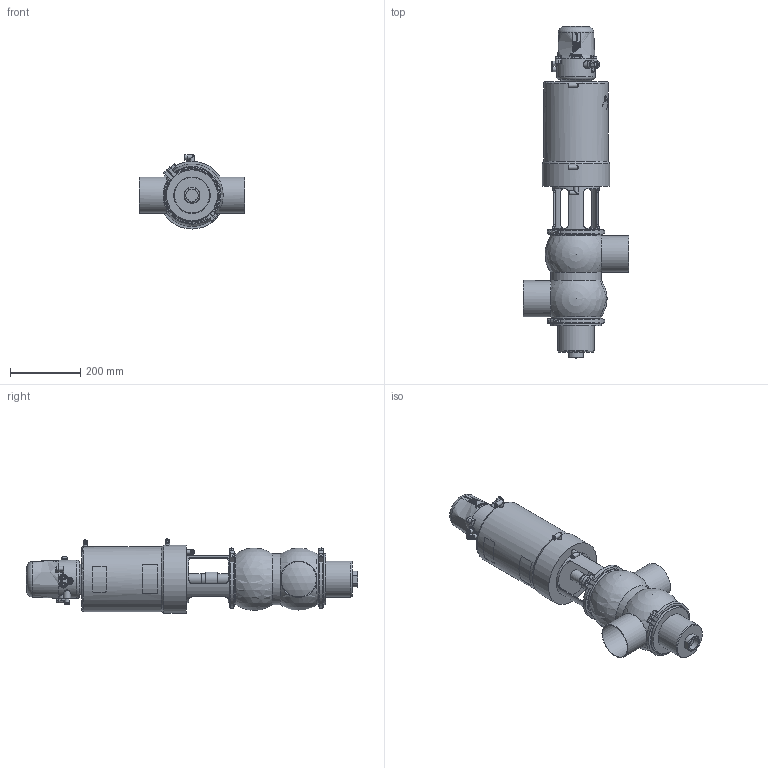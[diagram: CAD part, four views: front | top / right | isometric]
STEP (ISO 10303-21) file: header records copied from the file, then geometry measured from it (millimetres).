
FILE_DESCRIPTION (( 'STEP AP214' ), '1' );
FILE_NAME ('INNOVA P DC-180 W DIN 100 & C-TOP S_10.250.16.0019.STEP', '2024-08-08T12:22:23', ( '' ), ( '' ), 'SwSTEP 2.0', 'SolidWorks 2023', '' );
FILE_SCHEMA (( 'AUTOMOTIVE_DESIGN' ));
Length unit declared in the file: millimetre
Products named in the file (7): 10.426.15.0001_C-TOP S - 3 EV; 10.250.15.0003_DN 100; 10.250.15.0001_DIN 100; INNOVA P DC-180 W DIN 100 & C-TOP S_10.250.16.0019; 10.251.15.0011_DIN 100; 10.250.15.0002_Type P T3; 10.240.15.0001_DN 100
Assembly tree (7 placements, depth 2):
  INNOVA P DC-180 W DIN 100 & C-TOP S_10.250.16.0019
    10.250.15.0001_DIN 100
    10.250.15.0002_Type P T3
    10.426.15.0001_C-TOP S - 3 EV
    10.251.15.0011_DIN 100
    10.240.15.0001_DN 100  x2
    10.250.15.0003_DN 100
Bounding box: 300 x 946.5 x 211.5 mm (x, y, z)
Volume: 16440713 mm3; surface area: 836445 mm2
Topology: 7 solids, 7 shells, 1202 faces, 2901 edges, 1929 vertices
Faces by surface type: plane 412, cylinder 383, cone 204, bspline 162, torus 33, sphere 8
Full cylindrical faces by diameter (mm): 0.371 x17, 0.512 x16, 0.658 x16, 0.795 x16, 0.94 x15, 1.098 x15, 1.241 x13, 1.382 x13, 1.523 x11, 1.669 x10, 2.201 x1, 4.2 x2, 5 x1, 5.5 x2, 6 x4, 6.15 x3, 8 x5, 10 x1, 10.5 x3, 11 x4, 12.5 x9, 13 x6, 13.5 x2, 17 x3, 20 x2, 22 x2, 30.5 x2, 32 x1, 35 x1, 41 x1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
Entity records: 59968 total; most frequent: CARTESIAN_POINT 28655, ORIENTED_EDGE 4608, DIRECTION 3749, EDGE_CURVE 2304, VERTEX_POINT 1642, EDGE_LOOP 1620, AXIS2_PLACEMENT_3D 1544, FACE_OUTER_BOUND 1369
